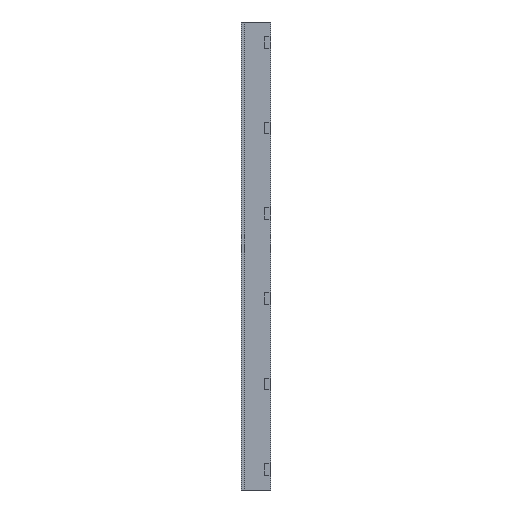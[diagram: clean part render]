
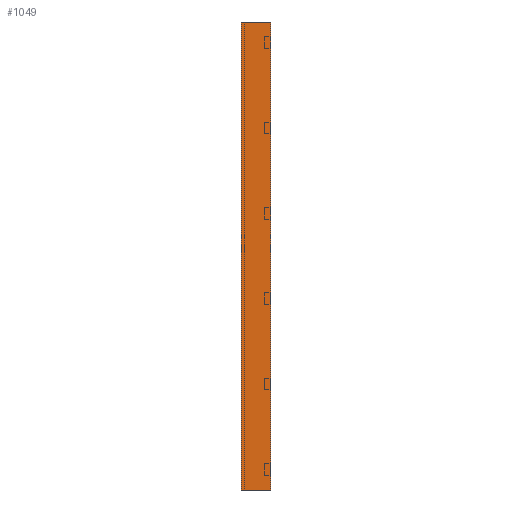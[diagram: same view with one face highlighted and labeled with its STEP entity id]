
A CAD part, left-side view. The second image highlights one B-rep face of the part: STEP entity #1049.
In plain terms, the highlighted planar face has unit normal (-1, 0, 0).
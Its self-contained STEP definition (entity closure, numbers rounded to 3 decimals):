
#12 = EDGE_LOOP ( 'NONE', ( #1603, #1342, #90, #277 ) ) ;
#16 = AXIS2_PLACEMENT_3D ( 'NONE', #321, #860, #1379 ) ;
#90 = ORIENTED_EDGE ( 'NONE', *, *, #1566, .T. ) ;
#168 = LINE ( 'NONE', #792, #447 ) ;
#211 = VERTEX_POINT ( 'NONE', #1232 ) ;
#216 = FACE_OUTER_BOUND ( 'NONE', #12, .T. ) ;
#223 = CARTESIAN_POINT ( 'NONE',  ( 0., 0., -1600. ) ) ;
#228 = CARTESIAN_POINT ( 'NONE',  ( 0., 100., -1600. ) ) ;
#277 = ORIENTED_EDGE ( 'NONE', *, *, #1331, .T. ) ;
#321 = CARTESIAN_POINT ( 'NONE',  ( 0., 0., -1600. ) ) ;
#388 = VERTEX_POINT ( 'NONE', #774 ) ;
#447 = VECTOR ( 'NONE', #690, 1000. ) ;
#471 = DIRECTION ( 'NONE',  ( 0., -1., 0. ) ) ;
#663 = VECTOR ( 'NONE', #471, 1000. ) ;
#690 = DIRECTION ( 'NONE',  ( 0., 0., 1. ) ) ;
#766 = LINE ( 'NONE', #223, #1360 ) ;
#773 = EDGE_CURVE ( 'NONE', #388, #211, #778, .T. ) ;
#774 = CARTESIAN_POINT ( 'NONE',  ( 0., 100., -1600. ) ) ;
#778 = LINE ( 'NONE', #228, #1668 ) ;
#792 = CARTESIAN_POINT ( 'NONE',  ( 0., 0., -1600. ) ) ;
#860 = DIRECTION ( 'NONE',  ( -1., 0., 0. ) ) ;
#913 = CARTESIAN_POINT ( 'NONE',  ( 0., 0., 0. ) ) ;
#969 = CARTESIAN_POINT ( 'NONE',  ( 0., 0., -1600. ) ) ;
#973 = CARTESIAN_POINT ( 'NONE',  ( 0., 0., 0. ) ) ;
#1049 = ADVANCED_FACE ( 'NONE', ( #216 ), #1645, .T. ) ;
#1119 = VERTEX_POINT ( 'NONE', #969 ) ;
#1165 = DIRECTION ( 'NONE',  ( 0., -1., 0. ) ) ;
#1217 = LINE ( 'NONE', #973, #663 ) ;
#1232 = CARTESIAN_POINT ( 'NONE',  ( 0., 100., 0. ) ) ;
#1331 = EDGE_CURVE ( 'NONE', #1119, #1593, #168, .T. ) ;
#1342 = ORIENTED_EDGE ( 'NONE', *, *, #773, .F. ) ;
#1360 = VECTOR ( 'NONE', #1165, 1000. ) ;
#1379 = DIRECTION ( 'NONE',  ( 0., 0., 1. ) ) ;
#1381 = EDGE_CURVE ( 'NONE', #211, #1593, #1217, .T. ) ;
#1566 = EDGE_CURVE ( 'NONE', #388, #1119, #766, .T. ) ;
#1593 = VERTEX_POINT ( 'NONE', #913 ) ;
#1603 = ORIENTED_EDGE ( 'NONE', *, *, #1381, .F. ) ;
#1645 = PLANE ( 'NONE',  #16 ) ;
#1668 = VECTOR ( 'NONE', #1677, 1000. ) ;
#1677 = DIRECTION ( 'NONE',  ( 0., 0., 1. ) ) ;
